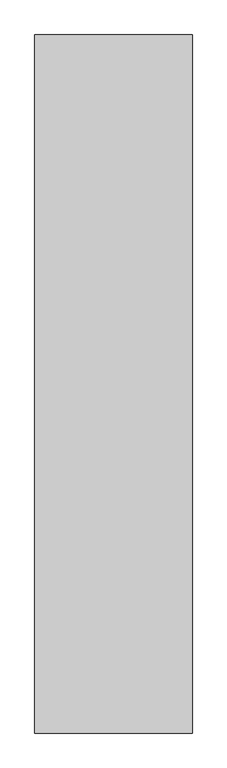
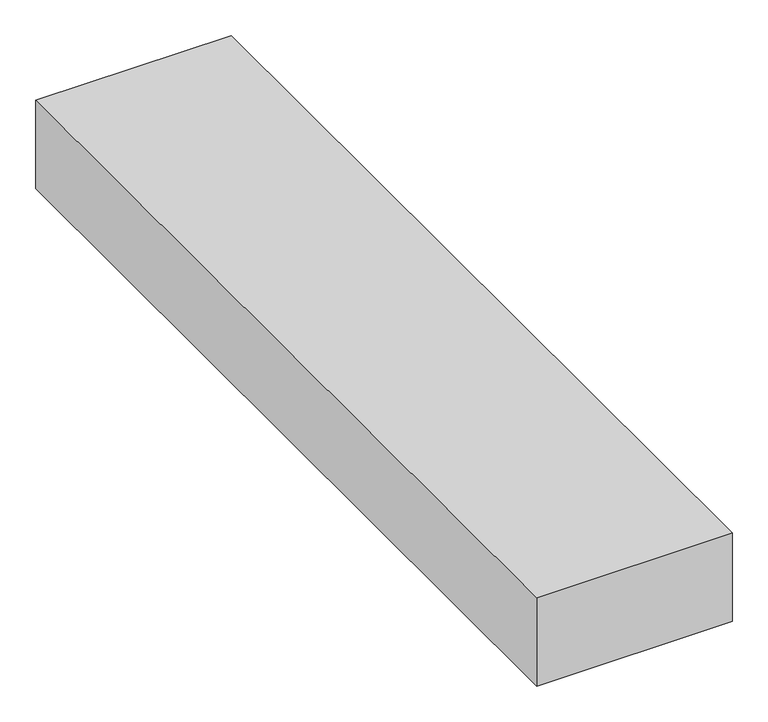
"""IFC4 building model written with IfcOpenShell, lengths in millimetres: furniture geometry, StanceHC-Flora-Spacer_Table : FAT13566C-P."""

import ifcopenshell
import ifcopenshell.guid

model = None  # the IFC model being written
_history = None  # IfcOwnerHistory: only IFC2X3 demands one
_inside = {}  # id of a spatial element -> (the spatial element, [elements in it])
_under = {}  # id of a project, library or spatial element -> (it, [spatial elements below it])
_declared = {}  # id of a project -> (the project, [libraries it declares])
_typed = {}  # id of a type object -> (the type object, [elements of that type])
_made_of = {}  # id of a material, layer set ... -> (it, [elements and type objects made of it])


def new_model(schema):
    """Start an empty IFC model of exactly this schema.

    Asked for "IFC4X3", IfcOpenShell would pick the latest addendum, in which some entities
    have other attributes; the version numbers below select the first issue.
    IFC2X3 requires an IfcOwnerHistory on every rooted entity: one is made here for all.
    """
    global model, _history
    if schema == "IFC4X3":
        model = ifcopenshell.file(schema_version=(4, 3, 0, 0))
    else:
        model = ifcopenshell.file(schema=schema)
    _inside.clear()
    _under.clear()
    _declared.clear()
    _typed.clear()
    _made_of.clear()
    _history = None
    if model.schema == "IFC2X3":
        org = make("IfcOrganization", Name="unknown")
        user = make(
            "IfcPersonAndOrganization",
            ThePerson=make("IfcPerson", FamilyName="unknown"),
            TheOrganization=org,
        )
        app = make(
            "IfcApplication",
            ApplicationDeveloper=org,
            Version="unknown",
            ApplicationFullName="unknown",
            ApplicationIdentifier="unknown",
        )
        _history = make(
            "IfcOwnerHistory",
            OwningUser=user,
            OwningApplication=app,
            ChangeAction="ADDED",
            CreationDate=0,
        )
    return model


def make(cls, **values):
    """One entity of the class cls with the attributes given. An attribute that is None is left unset."""
    return model.create_entity(
        cls, **{name: value for name, value in values.items() if value is not None}
    )


def rooted(cls, **values):
    """An entity with a GlobalId (a new one), such as an element, a storey or a relation."""
    return make(cls, GlobalId=ifcopenshell.guid.new(), OwnerHistory=_history, **values)


def si_unit(unit_type, name, prefix=None):
    """IfcSIUnit, for example si_unit("LENGTHUNIT", "METRE", prefix="MILLI")."""
    return make("IfcSIUnit", UnitType=unit_type, Prefix=prefix, Name=name)


def assignment(units):
    """IfcUnitAssignment: the units of a project."""
    return None if units is None else make("IfcUnitAssignment", Units=units)


def point(xyz):
    """IfcCartesianPoint."""
    return None if xyz is None else make("IfcCartesianPoint", Coordinates=xyz)


def direction(xyz):
    """IfcDirection."""
    return None if xyz is None else make("IfcDirection", DirectionRatios=xyz)


def frame(location, z_axis=None, x_axis=None):
    """IfcAxis2Placement3D, a coordinate frame: its origin and axes. An axis left out is left unset."""
    return make(
        "IfcAxis2Placement3D",
        Location=point(location),
        Axis=direction(z_axis),
        RefDirection=direction(x_axis),
    )


def origin():
    """The frame at (0, 0, 0) with its axes left unset."""
    return frame((0.0, 0.0, 0.0))


def place(relative_to, where):
    """IfcLocalPlacement: puts the frame where relative to a parent placement (None: the world)."""
    return make(
        "IfcLocalPlacement", PlacementRelTo=relative_to, RelativePlacement=where
    )


def context(
    kind, dimensions, precision=None, world=None, true_north=None, identifier=None
):
    """IfcGeometricRepresentationContext, for example the 3D "Model" context."""
    return make(
        "IfcGeometricRepresentationContext",
        ContextIdentifier=identifier,
        ContextType=kind,
        CoordinateSpaceDimension=dimensions,
        Precision=precision,
        WorldCoordinateSystem=world,
        TrueNorth=true_north,
    )


def project(units=None, contexts=None):
    """IfcProject with its units and contexts."""
    return rooted(
        "IfcProject",
        Name="project",
        RepresentationContexts=contexts,
        UnitsInContext=assignment(units),
    )


def spatial(cls, under=None, at=None, **own):
    """A site, building, storey or space (cls), placed at a placement, below another one or the project."""
    s = rooted(cls, ObjectPlacement=at, **own)
    if under is not None:
        _under.setdefault(under.id(), (under, []))[1].append(s)
    return s


def polyline(points):
    """IfcPolyline through the points."""
    return make("IfcPolyline", Points=[point(p) for p in points])


def outline(outer, holes=None, kind="AREA"):
    """IfcArbitraryClosedProfileDef: a profile drawn as a closed curve; with holes, ...WithVoids."""
    if holes is None:
        return make("IfcArbitraryClosedProfileDef", ProfileType=kind, OuterCurve=outer)
    return make(
        "IfcArbitraryProfileDefWithVoids",
        ProfileType=kind,
        OuterCurve=outer,
        InnerCurves=holes,
    )


def extrude(swept, where, along, depth):
    """IfcExtrudedAreaSolid: the profile swept, set in the frame where, extruded along a direction by depth."""
    return make(
        "IfcExtrudedAreaSolid",
        SweptArea=swept,
        Position=where,
        ExtrudedDirection=direction(along),
        Depth=depth,
    )


def shape(context_of_items, identifier, shape_type, items):
    """IfcShapeRepresentation: the items that make up one representation, for example the "Body"."""
    return make(
        "IfcShapeRepresentation",
        ContextOfItems=context_of_items,
        RepresentationIdentifier=identifier,
        RepresentationType=shape_type,
        Items=items,
    )


def source(mapping_origin, context_of_items, identifier, shape_type, items):
    """IfcRepresentationMap: a shape defined once, which mapped items show again and again."""
    return make(
        "IfcRepresentationMap",
        MappingOrigin=mapping_origin,
        MappedRepresentation=shape(context_of_items, identifier, shape_type, items),
    )


def transform(
    local_origin,
    x_axis=None,
    y_axis=None,
    z_axis=None,
    scale=None,
    scale2=None,
    scale3=None,
    uniform=True,
):
    """IfcCartesianTransformationOperator3D, or its non-uniform kind. x_axis, y_axis, z_axis: its Axis1, 2, 3."""
    if uniform:
        return make(
            "IfcCartesianTransformationOperator3D",
            Axis1=direction(x_axis),
            Axis2=direction(y_axis),
            LocalOrigin=point(local_origin),
            Scale=scale,
            Axis3=direction(z_axis),
        )
    return make(
        "IfcCartesianTransformationOperator3DnonUniform",
        Axis1=direction(x_axis),
        Axis2=direction(y_axis),
        LocalOrigin=point(local_origin),
        Scale=scale,
        Axis3=direction(z_axis),
        Scale2=scale2,
        Scale3=scale3,
    )


def mapped(mapping_source, mapping_target):
    """IfcMappedItem: shows the shape of a source again, moved by a transform."""
    return make(
        "IfcMappedItem", MappingSource=mapping_source, MappingTarget=mapping_target
    )


def made_of(thing, what):
    """Note that an element or type object is made of a material, layer set ...; save() writes the relation."""
    if what is not None:
        _made_of.setdefault(what.id(), (what, []))[1].append(thing)
    return thing


def element(
    cls,
    number,
    at=None,
    inside=None,
    cuts=None,
    type_object=None,
    material=None,
    context=None,
    identifier="Body",
    shape_type=None,
    held_by="IfcProductDefinitionShape",
    body=None,
    shapes=None,
    **own,
):
    """One element of the class cls, such as IfcWall. Its Tag is "e" and its number.

    at: its placement. inside: the storey or other place that contains it. cuts: it is an
    opening in that element (IfcRelVoidsElement). A single representation is given by context,
    identifier, shape_type and body (its items); several are given by shapes. held_by: the class
    of the entity that holds the representations. save() writes the other relations.
    """
    e = rooted(cls, Tag="e%d" % number, ObjectPlacement=at, **own)
    if body is not None:
        shapes = [shape(context, identifier, shape_type, body)]
    if shapes is not None:
        e.Representation = make(held_by, Representations=shapes)
    if inside is not None:
        _inside.setdefault(inside.id(), (inside, []))[1].append(e)
    if cuts is not None:
        rooted(
            "IfcRelVoidsElement", RelatingBuildingElement=cuts, RelatedOpeningElement=e
        )
    if type_object is not None:
        _typed.setdefault(type_object.id(), (type_object, []))[1].append(e)
    return made_of(e, material)


def aggregate(whole, parts):
    """IfcRelAggregates: a whole, such as a stair, and the parts it consists of."""
    return rooted("IfcRelAggregates", RelatingObject=whole, RelatedObjects=parts)


def save(model, path):
    """Write the relations noted so far, then the file.

    IfcRelAggregates (storeys below a building ...), IfcRelContainedInSpatialStructure (elements
    in a storey), IfcRelDefinesByType, IfcRelAssociatesMaterial and IfcRelDeclares: one each for
    every whole, place, type object, material and project.
    """
    for whole, parts in _under.values():
        aggregate(whole, parts)
    for where, things in _inside.values():
        rooted(
            "IfcRelContainedInSpatialStructure",
            RelatedElements=things,
            RelatingStructure=where,
        )
    for kind, things in _typed.values():
        rooted("IfcRelDefinesByType", RelatedObjects=things, RelatingType=kind)
    for what, things in _made_of.values():
        rooted("IfcRelAssociatesMaterial", RelatedObjects=things, RelatingMaterial=what)
    for by, libraries in _declared.values():
        rooted("IfcRelDeclares", RelatingContext=by, RelatedDefinitions=libraries)
    model.write(path)


def furniture_4a6c68fe(model_context):
    return source(origin(), model_context, "Body", "SweptSolid", [
        extrude(outline(polyline([(158.75, 703.2625), (158.75, -703.2625), (-158.75, -703.2625), (-158.75, 703.2625), (158.75, 703.2625)])), frame((0.0, 0.0, 203.9170953), z_axis=(0.0, 0.0, 1.0), x_axis=(1.0, 0.0, 0.0)), (0.0, 0.0, 1.0), 151.6829047),
    ])


if __name__ == "__main__":
    model = new_model("IFC4")
    model_context = context("Model", 3, world=origin())
    ifc_project = project(units=[si_unit("LENGTHUNIT", "METRE", prefix="MILLI")], contexts=[model_context])
    site = spatial("IfcSite", under=ifc_project)
    building = spatial("IfcBuilding", under=site)
    placement = place(None, origin())
    furniture_shape = furniture_4a6c68fe(model_context)
    element("IfcFurniture", 1, ObjectType="StanceHC-Flora-Spacer_Table : FAT13566C-P", at=placement, inside=building, context=model_context, shape_type="MappedRepresentation", body=[
        mapped(furniture_shape, transform((0.0, 0.0, 0.0), x_axis=(1.0, 0.0, 0.0), y_axis=(0.0, 1.0, 0.0), z_axis=(0.0, 0.0, 1.0))),
    ])
    save(model, "model.ifc")
